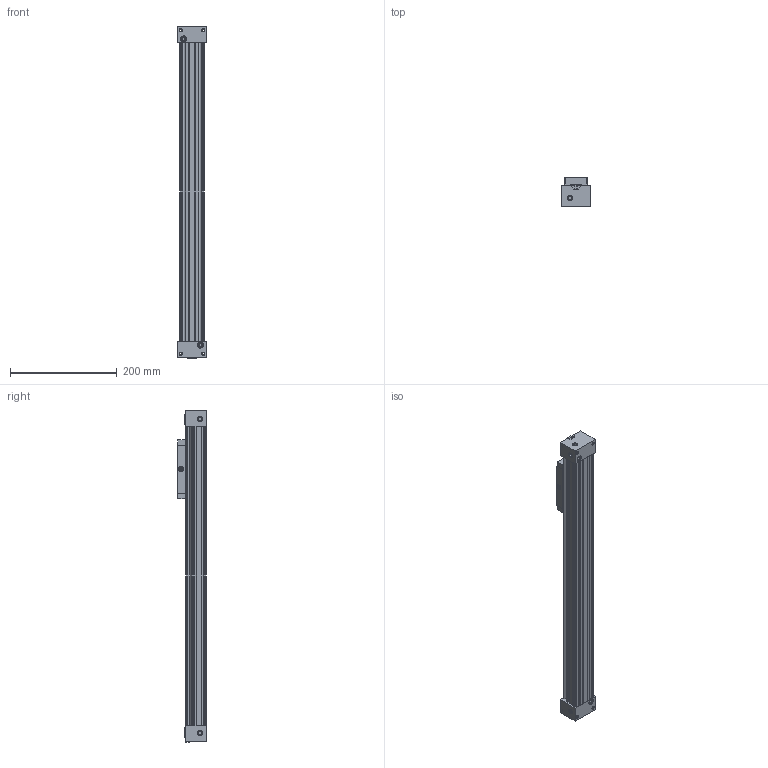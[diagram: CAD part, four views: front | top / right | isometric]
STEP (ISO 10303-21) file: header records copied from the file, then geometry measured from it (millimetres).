
FILE_DESCRIPTION (( 'STEP AP214' ), '1' );
FILE_NAME ('MY1B25TF-400Z.step.step', '2022-01-13T09:22:21', ( '' ), ( '' ), 'SwSTEP 2.0', 'SolidWorks 2021', '' );
FILE_SCHEMA (( 'AUTOMOTIVE_DESIGN' ));
Length unit declared in the file: millimetre
Products named in the file (5): MY1B25TF-400Z.step; MY1B25TF-400Z.step_Left_Head_Cover_25; MY1B25TF-400Z.step_MY1B_Body_25; MY1B25TF-400Z.step_Right_Head_Cover_25; MY1B25TF-400Z.step_MY1B_Table_25
Assembly tree (4 placements, depth 2):
  MY1B25TF-400Z.step
    MY1B25TF-400Z.step_MY1B_Body_25
    MY1B25TF-400Z.step_Left_Head_Cover_25
    MY1B25TF-400Z.step_Right_Head_Cover_25
    MY1B25TF-400Z.step_MY1B_Table_25
Bounding box: 53 x 54 x 622 mm (x, y, z)
Volume: 1030329.3 mm3; surface area: 164112.1 mm2
Topology: 4 solids, 4 shells, 423 faces, 1026 edges, 652 vertices
Faces by surface type: plane 219, cylinder 126, cone 66, torus 12
Entity records: 13901 total; most frequent: DIRECTION 2202, CARTESIAN_POINT 2092, ORIENTED_EDGE 2020, EDGE_CURVE 1010, AXIS2_PLACEMENT_3D 762, LINE 678, VECTOR 678, VERTEX_POINT 652
